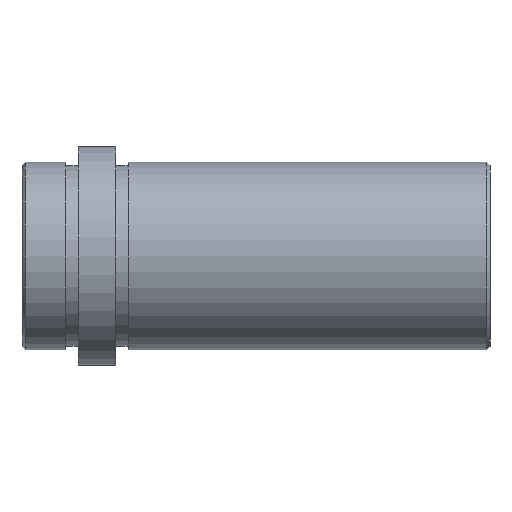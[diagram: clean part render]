
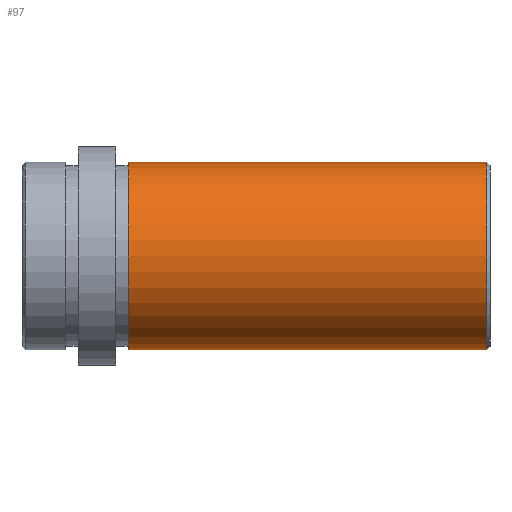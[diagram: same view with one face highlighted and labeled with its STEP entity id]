
A CAD part, front view. The second image highlights one B-rep face of the part: STEP entity #97.
In plain terms, the highlighted face is a revolution surface.
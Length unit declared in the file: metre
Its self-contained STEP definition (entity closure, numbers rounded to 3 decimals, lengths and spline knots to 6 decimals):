
#97 = ADVANCED_FACE( '', ( #149 ), #150, .F. );
#149 = FACE_OUTER_BOUND( '', #235, .T. );
#150 = SURFACE_OF_REVOLUTION( '', #236, #237 );
#235 = EDGE_LOOP( '', ( #403, #404, #405, #406 ) );
#236 = B_SPLINE_CURVE_WITH_KNOTS( '', 1, ( #407, #408 ), .UNSPECIFIED., .F., .F., ( 2, 2 ), ( -10000., 10000. ), .UNSPECIFIED. );
#237 = AXIS1_PLACEMENT( '', #409, #410 );
#403 = ORIENTED_EDGE( '', *, *, #482, .T. );
#404 = ORIENTED_EDGE( '', *, *, #485, .T. );
#405 = ORIENTED_EDGE( '', *, *, #489, .F. );
#406 = ORIENTED_EDGE( '', *, *, #483, .T. );
#407 = CARTESIAN_POINT( '', ( 10000.0745, 0., 0.015 ) );
#408 = CARTESIAN_POINT( '', ( -9999.9255, 0., 0.015 ) );
#409 = CARTESIAN_POINT( '', ( 0., 0., 0. ) );
#410 = DIRECTION( '', ( 1., 0., 0. ) );
#482 = EDGE_CURVE( '', #552, #554, #560, .T. );
#483 = EDGE_CURVE( '', #561, #552, #562, .F. );
#485 = EDGE_CURVE( '', #554, #563, #565, .T. );
#489 = EDGE_CURVE( '', #561, #563, #571, .T. );
#552 = VERTEX_POINT( '', #646 );
#554 = VERTEX_POINT( '', #649 );
#560 = CIRCLE( '', #658, 0.015 );
#561 = VERTEX_POINT( '', #659 );
#562 = LINE( '', #660, #661 );
#563 = VERTEX_POINT( '', #662 );
#565 = LINE( '', #664, #665 );
#571 = CIRCLE( '', #673, 0.015 );
#646 = CARTESIAN_POINT( '', ( 0.0745, 0., -0.015 ) );
#649 = CARTESIAN_POINT( '', ( 0.0745, 0., 0.015 ) );
#658 = AXIS2_PLACEMENT_3D( '', #772, #773, #774 );
#659 = CARTESIAN_POINT( '', ( 0.017, 0., -0.015 ) );
#660 = CARTESIAN_POINT( '', ( 0.0745, 0., -0.015 ) );
#661 = VECTOR( '', #775, 1. );
#662 = CARTESIAN_POINT( '', ( 0.017, 0., 0.015 ) );
#664 = CARTESIAN_POINT( '', ( 0.0745, 0., 0.015 ) );
#665 = VECTOR( '', #779, 1. );
#673 = AXIS2_PLACEMENT_3D( '', #785, #786, #787 );
#772 = CARTESIAN_POINT( '', ( 0.0745, 0., 0. ) );
#773 = DIRECTION( '', ( -1., 0., 0. ) );
#774 = DIRECTION( '', ( 0., 0., 1. ) );
#775 = DIRECTION( '', ( -1., 0., 0. ) );
#779 = DIRECTION( '', ( -1., 0., 0. ) );
#785 = CARTESIAN_POINT( '', ( 0.017, 0., 0. ) );
#786 = DIRECTION( '', ( -1., 0., 0. ) );
#787 = DIRECTION( '', ( 0., 0., 1. ) );
